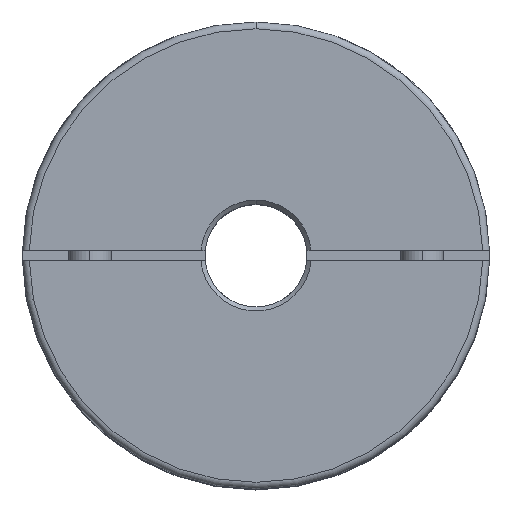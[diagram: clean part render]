
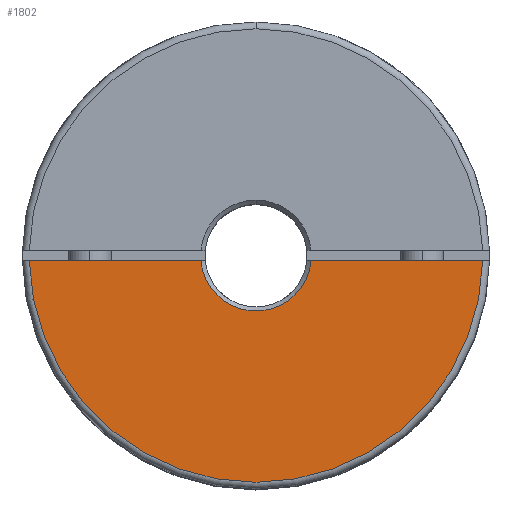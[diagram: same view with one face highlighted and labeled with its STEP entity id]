
A CAD part, top view. The second image highlights one B-rep face of the part: STEP entity #1802.
In plain terms, the highlighted planar face has unit normal (0, 0, 1).
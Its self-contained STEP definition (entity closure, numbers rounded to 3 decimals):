
#543 = CARTESIAN_POINT ( 'NONE',  ( -27.4, -0.6, 22.541 ) ) ;
#544 = DIRECTION ( 'NONE',  ( 1., 0., 0. ) ) ;
#1133 = CARTESIAN_POINT ( 'NONE',  ( 0., 0., 22.541 ) ) ;
#1139 = PLANE ( 'NONE',  #6000 ) ;
#1142 = DIRECTION ( 'NONE',  ( 0., 0., 1. ) ) ;
#1143 = DIRECTION ( 'NONE',  ( 0., 1., 0. ) ) ;
#1802 = ADVANCED_FACE ( 'NONE', ( #2763 ), #1139, .T. ) ;
#2514 = DIRECTION ( 'NONE',  ( 1., 0., 0. ) ) ;
#2516 = CARTESIAN_POINT ( 'NONE',  ( -27.4, -0.6, 22.541 ) ) ;
#2763 = FACE_OUTER_BOUND ( 'NONE', #4316, .T. ) ;
#2944 = LINE ( 'NONE', #2516, #2945 ) ;
#2945 = VECTOR ( 'NONE', #2514, 1000. ) ;
#3344 = CIRCLE ( 'NONE', #5896, 26.6 ) ;
#3355 = CIRCLE ( 'NONE', #5899, 6.5 ) ;
#3396 = LINE ( 'NONE', #543, #3397 ) ;
#3397 = VECTOR ( 'NONE', #544, 1000. ) ;
#3695 = CARTESIAN_POINT ( 'NONE',  ( 6.472, -0.6, 22.541 ) ) ;
#3749 = CARTESIAN_POINT ( 'NONE',  ( 26.593, -0.6, 22.541 ) ) ;
#3781 = CARTESIAN_POINT ( 'NONE',  ( -26.593, -0.6, 22.541 ) ) ;
#3816 = CARTESIAN_POINT ( 'NONE',  ( -6.472, -0.6, 22.541 ) ) ;
#4316 = EDGE_LOOP ( 'NONE', ( #5155, #4701, #5152, #4980 ) ) ;
#4685 = VERTEX_POINT ( 'NONE', #3695 ) ;
#4701 = ORIENTED_EDGE ( 'NONE', *, *, #5737, .T. ) ;
#4950 = CARTESIAN_POINT ( 'NONE',  ( 0., 0., 22.541 ) ) ;
#4952 = DIRECTION ( 'NONE',  ( 0., 0., -1. ) ) ;
#4953 = DIRECTION ( 'NONE',  ( 0., 1., 0. ) ) ;
#4980 = ORIENTED_EDGE ( 'NONE', *, *, #5732, .T. ) ;
#4982 = VERTEX_POINT ( 'NONE', #3749 ) ;
#4986 = CARTESIAN_POINT ( 'NONE',  ( 0., 0., 22.541 ) ) ;
#4987 = DIRECTION ( 'NONE',  ( 0., 0., 1. ) ) ;
#4988 = DIRECTION ( 'NONE',  ( 0., 1., 0. ) ) ;
#5132 = VERTEX_POINT ( 'NONE', #3781 ) ;
#5152 = ORIENTED_EDGE ( 'NONE', *, *, #5884, .F. ) ;
#5155 = ORIENTED_EDGE ( 'NONE', *, *, #5523, .F. ) ;
#5216 = VERTEX_POINT ( 'NONE', #3816 ) ;
#5523 = EDGE_CURVE ( 'NONE', #5132, #5216, #2944, .T. ) ;
#5732 = EDGE_CURVE ( 'NONE', #4685, #5216, #3355, .T. ) ;
#5737 = EDGE_CURVE ( 'NONE', #5132, #4982, #3344, .T. ) ;
#5884 = EDGE_CURVE ( 'NONE', #4685, #4982, #3396, .T. ) ;
#5896 = AXIS2_PLACEMENT_3D ( 'NONE', #4986, #4987, #4988 ) ;
#5899 = AXIS2_PLACEMENT_3D ( 'NONE', #4950, #4952, #4953 ) ;
#6000 = AXIS2_PLACEMENT_3D ( 'NONE', #1133, #1142, #1143 ) ;
